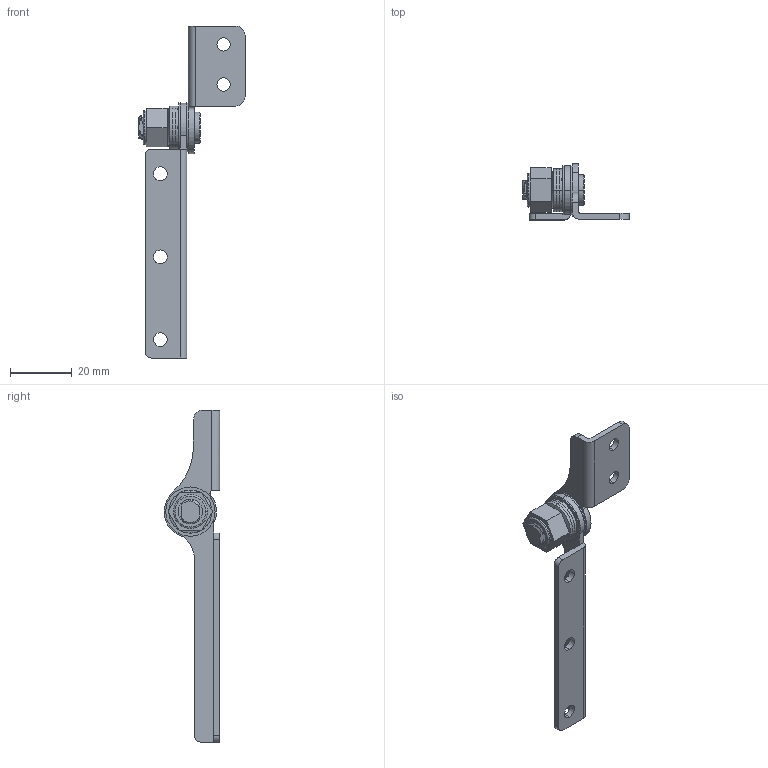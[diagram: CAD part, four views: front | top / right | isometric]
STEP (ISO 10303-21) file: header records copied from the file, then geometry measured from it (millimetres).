
FILE_DESCRIPTION (( 'STEP AP203' ), '1' );
FILE_NAME ('XG11-047-5R.STEP', '2025-07-26T07:58:31', ( '微软用户' ), ( '微软中国' ), 'SwSTEP 2.0', 'SolidWorks 2024', '' );
FILE_SCHEMA (( 'CONFIG_CONTROL_DESIGN' ));
Length unit declared in the file: millimetre
Products named in the file (1): XG11-047-5R
Bounding box: 34.5 x 18.06 x 107.81 mm (x, y, z)
Volume: 6470.2 mm3; surface area: 8366 mm2
Topology: 9 solids, 9 shells, 208 faces, 542 edges, 355 vertices
Faces by surface type: cylinder 85, plane 75, bspline 33, cone 13, torus 2
Entity records: 10950 total; most frequent: CARTESIAN_POINT 5915, ORIENTED_EDGE 1084, DIRECTION 935, EDGE_CURVE 542, VERTEX_POINT 355, AXIS2_PLACEMENT_3D 345, VECTOR 245, LINE 245
